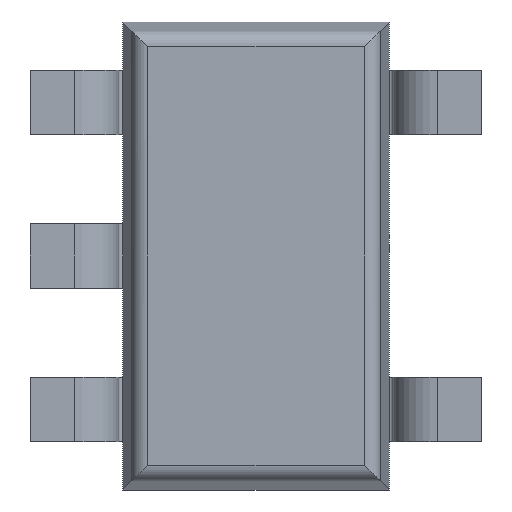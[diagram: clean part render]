
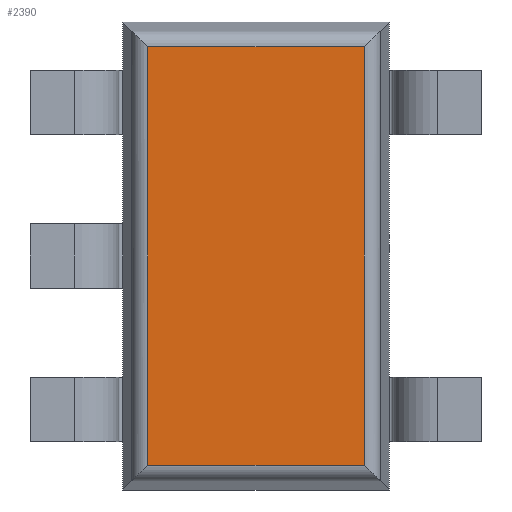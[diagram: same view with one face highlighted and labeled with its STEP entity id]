
A CAD part, front view. The second image highlights one B-rep face of the part: STEP entity #2390.
In plain terms, the highlighted planar face has unit normal (0, -1, 0).
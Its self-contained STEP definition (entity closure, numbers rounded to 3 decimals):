
#2351 = CARTESIAN_POINT ( 'NONE',  ( 0.671, 0., 1.296 ) ) ;
#2352 = VERTEX_POINT ( 'NONE', #2351 ) ;
#2353 = CARTESIAN_POINT ( 'NONE',  ( -0.671, 0., 1.296 ) ) ;
#2354 = VERTEX_POINT ( 'NONE', #2353 ) ;
#2355 = CARTESIAN_POINT ( 'NONE',  ( 0., 0., 1.296 ) ) ;
#2356 = DIRECTION ( 'NONE',  ( -1., 0., 0. ) ) ;
#2357 = VECTOR ( 'NONE', #2356, 1000. ) ;
#2358 = LINE ( 'NONE', #2355, #2357 ) ;
#2359 = EDGE_CURVE ( 'NONE', #2352, #2354, #2358, .T. ) ;
#2360 = ORIENTED_EDGE ( 'NONE', *, *, #2359, .T. ) ;
#2361 = CARTESIAN_POINT ( 'NONE',  ( -0.671, 0., -1.296 ) ) ;
#2362 = VERTEX_POINT ( 'NONE', #2361 ) ;
#2363 = CARTESIAN_POINT ( 'NONE',  ( -0.671, 0., 0. ) ) ;
#2364 = DIRECTION ( 'NONE',  ( 0., 0., -1. ) ) ;
#2365 = VECTOR ( 'NONE', #2364, 1000. ) ;
#2366 = LINE ( 'NONE', #2363, #2365 ) ;
#2367 = EDGE_CURVE ( 'NONE', #2354, #2362, #2366, .T. ) ;
#2368 = ORIENTED_EDGE ( 'NONE', *, *, #2367, .T. ) ;
#2369 = CARTESIAN_POINT ( 'NONE',  ( 0.671, 0., -1.296 ) ) ;
#2370 = VERTEX_POINT ( 'NONE', #2369 ) ;
#2371 = CARTESIAN_POINT ( 'NONE',  ( 0., 0., -1.296 ) ) ;
#2372 = DIRECTION ( 'NONE',  ( 1., 0., 0. ) ) ;
#2373 = VECTOR ( 'NONE', #2372, 1000. ) ;
#2374 = LINE ( 'NONE', #2371, #2373 ) ;
#2375 = EDGE_CURVE ( 'NONE', #2362, #2370, #2374, .T. ) ;
#2376 = ORIENTED_EDGE ( 'NONE', *, *, #2375, .T. ) ;
#2377 = CARTESIAN_POINT ( 'NONE',  ( 0.671, 0., 0. ) ) ;
#2378 = DIRECTION ( 'NONE',  ( 0., 0., 1. ) ) ;
#2379 = VECTOR ( 'NONE', #2378, 1000. ) ;
#2380 = LINE ( 'NONE', #2377, #2379 ) ;
#2381 = EDGE_CURVE ( 'NONE', #2370, #2352, #2380, .T. ) ;
#2382 = ORIENTED_EDGE ( 'NONE', *, *, #2381, .T. ) ;
#2383 = EDGE_LOOP ( 'NONE', ( #2360, #2368, #2376, #2382 ) ) ;
#2384 = FACE_OUTER_BOUND ( 'NONE', #2383, .T. ) ;
#2385 = CARTESIAN_POINT ( 'NONE',  ( 0., 0., 0. ) ) ;
#2386 = DIRECTION ( 'NONE',  ( 0., -1., 0. ) ) ;
#2387 = DIRECTION ( 'NONE',  ( 1., 0., 0. ) ) ;
#2388 = AXIS2_PLACEMENT_3D ( 'NONE', #2385, #2386, #2387 ) ;
#2389 = PLANE ( 'NONE', #2388 ) ;
#2390 = ADVANCED_FACE ( 'NONE', ( #2384 ), #2389, .T. ) ;
